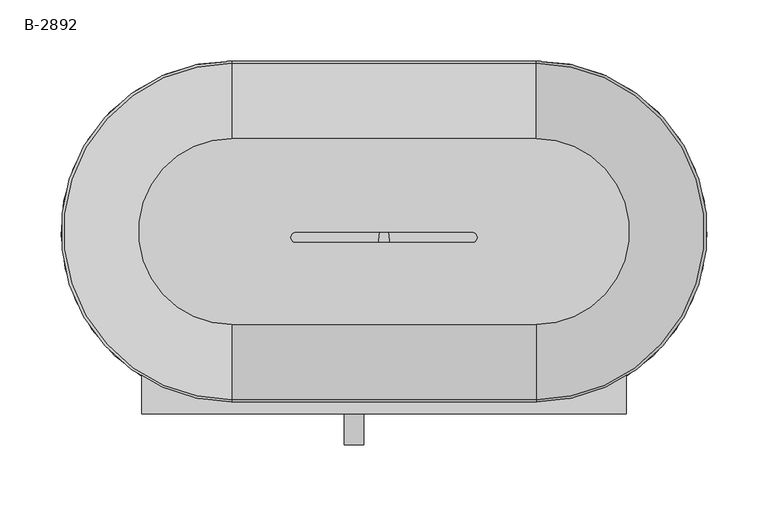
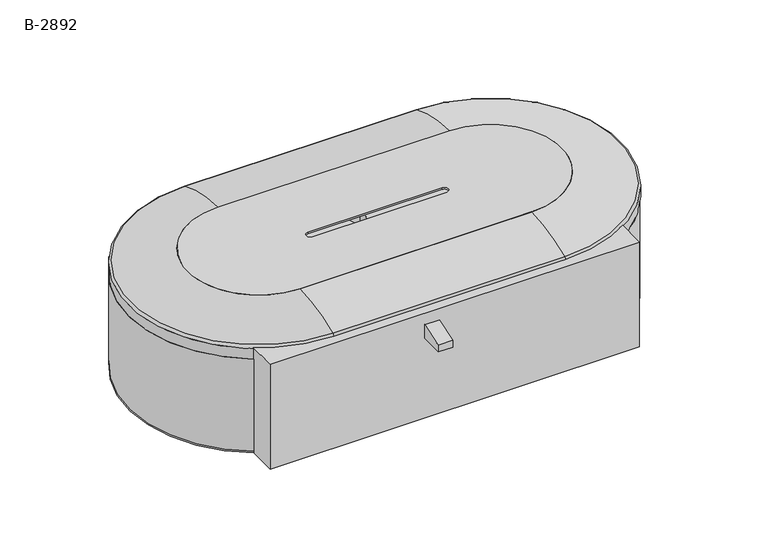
"""IFC4 building model written with IfcOpenShell, lengths in millimetres: proxy geometry, Toilet_Tissue_Dispenser-Bobrick-B2892-Twin_Jumbo_Roll-Surface_Mounted : B-2892."""

from ifc_helpers import new_model, si_unit, point, frame, frame_2d, origin, place, context, project, spatial, polyline, circle_curve, ellipse_curve, trimmed, segment, composite_curve, outline, extrude, source, transform, mapped, element, save
from ifc_brep_helpers import plane_surface, cylinder_surface, revolved_surface, advanced_brep


def b_2892_8b92a380(model_context):
    return source(origin(), model_context, "Body", "SolidModel", [
        advanced_brep(
        [(124.61875, 142.875, 1.5875), (-124.61875, 142.875, 1.5875), (-198.4375, -111.9673368, 1.5875), (-198.4375, -109.5375, 1.5875), (198.4375, -109.5375, 1.5875), (198.4375, -111.9673368, 1.5875), (-124.61875, 144.4625, 0.0), (124.61875, 144.4625, 0.0), (198.4375, -113.8413876, 0.0), (198.4375, -144.4625, 0.0), (-198.4375, -144.4625, 0.0), (-198.4375, -113.8413876, 0.0), (-124.61875, 144.4625, 1.5875), (-198.4375, -113.8413876, 1.5875), (124.61875, 144.4625, 1.5875), (198.4375, -113.8413876, 1.5875), (-124.61875, 144.4625, 106.3625), (124.61875, 144.4625, 106.3625), (-198.4375, -113.8413876, 106.3625), (-198.4375, -111.9673368, 106.3625), (-124.61875, 142.875, 106.3625), (124.61875, 142.875, 106.3625), (198.4375, -111.9673368, 106.3625), (198.4375, -113.8413876, 106.3625), (198.4375, -144.4625, 119.0625), (198.4375, -109.5375, 119.0625), (-198.4375, -109.5375, 119.0625), (-198.4375, -144.4625, 119.0625)],
        [
            (0, 1),
            (1, 2, circle_curve(frame((-124.61875, 4.7625, 1.5875), z_axis=(0.0, 0.0, 1.0), x_axis=(1.0, 0.0, 0.0)), 138.1125)),
            (2, 3),
            (3, 4),
            (4, 5),
            (5, 0, circle_curve(frame((124.61875, 4.7625, 1.5875), z_axis=(0.0, 0.0, 1.0), x_axis=(1.0, 0.0, 0.0)), 138.1125)),
            (6, 7),
            (7, 8, circle_curve(frame((124.61875, 4.7625, 0.0), z_axis=(0.0, 0.0, -1.0), x_axis=(1.0, 0.0, 0.0)), 139.7)),
            (8, 9),
            (9, 10),
            (10, 11),
            (11, 6, circle_curve(frame((-124.61875, 4.7625, 0.0), z_axis=(0.0, 0.0, -1.0), x_axis=(1.0, 0.0, 0.0)), 139.7)),
            (12, 6),
            (11, 13),
            (13, 12, circle_curve(frame((-124.61875, 4.7625, 1.5875), z_axis=(0.0, 0.0, -1.0), x_axis=(1.0, 0.0, 0.0)), 139.7)),
            (7, 14),
            (14, 15, circle_curve(frame((124.61875, 4.7625, 1.5875), z_axis=(0.0, 0.0, -1.0), x_axis=(1.0, 0.0, 0.0)), 139.7)),
            (15, 8),
            (12, 16),
            (16, 17),
            (17, 14),
            (16, 18, circle_curve(frame((-124.61875, 4.7625, 106.3625), z_axis=(0.0, 0.0, 1.0), x_axis=(1.0, 0.0, 0.0)), 139.7)),
            (18, 19),
            (19, 20, circle_curve(frame((-124.61875, 4.7625, 106.3625), z_axis=(0.0, 0.0, -1.0), x_axis=(1.0, 0.0, 0.0)), 138.1125)),
            (20, 21),
            (21, 22, circle_curve(frame((124.61875, 4.7625, 106.3625), z_axis=(0.0, 0.0, -1.0), x_axis=(1.0, 0.0, 0.0)), 138.1125)),
            (22, 23),
            (23, 17, circle_curve(frame((124.61875, 4.7625, 106.3625), z_axis=(0.0, 0.0, 1.0), x_axis=(1.0, 0.0, 0.0)), 139.7)),
            (23, 15),
            (13, 18),
            (1, 20),
            (19, 2),
            (0, 21),
            (5, 22),
            (24, 25),
            (25, 26),
            (26, 27),
            (27, 24),
            (24, 9),
            (4, 25),
            (3, 26),
            (10, 27),
        ],
        [
            plane_surface(frame((15.08125, 4.7625, 1.5875), z_axis=(0.0, 0.0, 1.0), x_axis=(0.0, 1.0, 0.0))),
            plane_surface(frame((15.08125, 4.7625, 0.0), z_axis=(0.0, 0.0, -1.0), x_axis=(0.0, -1.0, 0.0))),
            cylinder_surface(frame((-124.61875, 4.7625, 0.0), z_axis=(0.0, 0.0, 1.0), x_axis=(1.0, 0.0, 0.0)), 139.7),
            cylinder_surface(frame((124.61875, 4.7625, 0.0), z_axis=(0.0, 0.0, 1.0), x_axis=(1.0, 0.0, 0.0)), 139.7),
            plane_surface(frame((124.61875, 144.4625, 1.5875), z_axis=(0.0, 1.0, 0.0), x_axis=(0.0, 0.0, -1.0))),
            plane_surface(frame((-124.61875, -134.9375, 106.3625), z_axis=(0.0, 0.0, 1.0), x_axis=(1.0, 0.0, 0.0))),
            revolved_surface(polyline([(13.493750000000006, 4.7625, 1.5875), (13.493750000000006, 4.7625, 106.3625)]), (-124.61875, 4.7625, 0.0), (0.0, 0.0, -1.0)),
            plane_surface(frame((-124.61875, 142.875, 106.3625), z_axis=(0.0, -1.0, 0.0), x_axis=(0.0, 0.0, -1.0))),
            revolved_surface(polyline([(262.73125000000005, 4.7625, 1.5875), (262.73125000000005, 4.7625, 106.3625)]), (124.61875, 4.7625, 0.0), (0.0, 0.0, -1.0)),
            plane_surface(frame((198.4375, -144.4625, 119.0625), z_axis=(0.0, 0.0, 1.0), x_axis=(0.0, 1.0, 0.0))),
            plane_surface(frame((198.4375, -144.4625, 119.0625), z_axis=(1.0, 0.0, 0.0), x_axis=(0.0, 0.0, -1.0))),
            plane_surface(frame((198.4375, -109.5375, 119.0625), z_axis=(0.0, 1.0, 0.0), x_axis=(0.0, 0.0, -1.0))),
            plane_surface(frame((-198.4375, -109.5375, 119.0625), z_axis=(-1.0, 0.0, 0.0), x_axis=(0.0, 0.0, -1.0))),
            plane_surface(frame((-198.4375, -144.4625, 119.0625), z_axis=(0.0, -1.0, 0.0), x_axis=(0.0, 0.0, -1.0))),
        ],
        [
            (0, [[1, 2, 3, 4, 5, 6]]),
            (1, [[7, 8, 9, 10, 11, 12]]),
            (2, [[13, -12, 14, 15]]),
            (3, [[16, 17, 18, -8]]),
            (4, [[-7, -13, 19, 20, 21, -16]]),
            (5, [[-20, 22, 23, 24, 25, 26, 27, 28]]),
            (3, [[-21, -28, 29, -17]]),
            (2, [[-19, -15, 30, -22]]),
            (6, [[31, -24, 32, -2]]),
            (7, [[-25, -31, -1, 33]]),
            (8, [[-33, -6, 34, -26]]),
            (9, [[35, 36, 37, 38]]),
            (10, [[-35, 39, -9, -18, -29, -27, -34, -5, 40]]),
            (11, [[-36, -40, -4, 41]]),
            (12, [[-37, -41, -3, -32, -23, -30, -14, -11, 42]]),
            (13, [[-38, -42, -10, -39]]),
        ],
    ),
        extrude(outline(composite_curve([segment(trimmed(circle_curve(frame_2d((124.61875, 4.7625)), 76.2), [point((124.61875, 80.9625))], [point((124.61875, -71.4375))], False, "CARTESIAN"), True, "CONTINUOUS"), segment(polyline([(124.61875, -71.4375), (-124.61875, -71.4375)]), True, "CONTINUOUS"), segment(trimmed(circle_curve(frame_2d((-124.61875, 4.7625)), 76.2), [point((-124.61875, -71.4375))], [point((-124.61875, 80.9625))], False, "CARTESIAN"), True, "CONTINUOUS"), segment(polyline([(-124.61875, 80.9625), (124.61875, 80.9625)]), True, "CONTINUOUS")], self_intersect=False), holes=[composite_curve([segment(polyline([(72.23125, 3.96875), (-72.23125, 3.96875)]), True, "CONTINUOUS"), segment(trimmed(circle_curve(frame_2d((-72.23125, 0.0)), 3.96875), [point((-72.23125, 3.96875))], [point((-72.23125, -3.96875))], True, "CARTESIAN"), True, "CONTINUOUS"), segment(polyline([(-72.23125, -3.96875), (72.23125, -3.96875)]), True, "CONTINUOUS"), segment(trimmed(circle_curve(frame_2d((72.23125, 0.0)), 3.96875), [point((72.23125, -3.96875))], [point((72.23125, 3.96875))], True, "CARTESIAN"), True, "CONTINUOUS")], self_intersect=False)]), frame((0.0, 0.0, 133.35), z_axis=(0.0, 0.0, 1.0), x_axis=(1.0, 0.0, 0.0)), (0.0, 0.0, 1.0), 1.5875),
        advanced_brep(
        [(-124.61875, -133.0826824, 121.5135528), (-124.61875, 142.6076824, 121.5135528), (-124.61875, 144.4625, 118.6260376), (-124.61875, -134.9375, 118.6260376), (-124.61875, -71.4375, 134.9375), (-124.61875, 80.9625, 134.9375), (-124.61875, -71.4375, 133.35), (-124.61875, 80.9625, 133.35), (-124.61875, -133.35, 119.6418701), (-124.61875, 142.875, 119.6418701), (-124.61875, -133.35, 106.3625), (-124.61875, 142.875, 106.3625), (-124.61875, 144.4625, 106.3625), (-124.61875, -134.9375, 106.3625), (124.61875, -134.9375, 118.6260376), (124.61875, -133.0826824, 121.5135528), (124.61875, -71.4375, 134.9375), (124.61875, -71.4375, 133.35), (124.61875, -133.35, 119.6418701), (124.61875, -133.35, 106.3625), (124.61875, -134.9375, 106.3625), (124.61875, 142.6076824, 121.5135528), (124.61875, 144.4625, 118.6260376), (124.61875, 80.9625, 134.9375), (124.61875, 80.9625, 133.35), (124.61875, 142.875, 119.6418701), (124.61875, 142.875, 106.3625), (124.61875, 144.4625, 106.3625)],
        [
            (0, 1, circle_curve(frame((-124.61875, 4.7625, 121.5135528), z_axis=(0.0, 0.0, -1.0), x_axis=(0.0, 1.0, 0.0)), 137.8451824)),
            (1, 2, circle_curve(frame((-124.61875, 141.2875, 118.6260376), z_axis=(-1.0, 0.0, 0.0), x_axis=(0.0, -1.0, 0.0)), 3.175)),
            (2, 3, circle_curve(frame((-124.61875, 4.7625, 118.6260376), z_axis=(0.0, 0.0, 1.0), x_axis=(0.0, 1.0, 0.0)), 139.7)),
            (3, 0, circle_curve(frame((-124.61875, -131.7625, 118.6260376), z_axis=(-1.0, 0.0, 0.0), x_axis=(0.0, 1.0, 0.0)), 3.175)),
            (4, 5, circle_curve(frame((-124.61875, 4.7625, 134.9375), z_axis=(0.0, 0.0, -1.0), x_axis=(0.0, 1.0, 0.0)), 76.2)),
            (5, 1, circle_curve(frame((-124.61875, 80.9625, -13.3173611), z_axis=(-1.0, 0.0, 0.0), x_axis=(0.0, -1.0, 0.0)), 148.2548611)),
            (0, 4, circle_curve(frame((-124.61875, -71.4375, -13.3173611), z_axis=(-1.0, 0.0, 0.0), x_axis=(0.0, 1.0, 0.0)), 148.2548611)),
            (6, 7, circle_curve(frame((-124.61875, 4.7625, 133.35), z_axis=(0.0, 0.0, -1.0), x_axis=(0.0, 1.0, 0.0)), 76.2)),
            (7, 5),
            (4, 6),
            (8, 9, circle_curve(frame((-124.61875, 4.7625, 119.6418701), z_axis=(0.0, 0.0, -1.0), x_axis=(0.0, 1.0, 0.0)), 138.1125)),
            (9, 7, circle_curve(frame((-124.61875, 80.9625, -13.3173611), z_axis=(1.0, 0.0, 0.0), x_axis=(0.0, -1.0, 0.0)), 146.6673611)),
            (6, 8, circle_curve(frame((-124.61875, -71.4375, -13.3173611), z_axis=(1.0, 0.0, 0.0), x_axis=(0.0, 1.0, 0.0)), 146.6673611)),
            (10, 11, circle_curve(frame((-124.61875, 4.7625, 106.3625), z_axis=(0.0, 0.0, -1.0), x_axis=(0.0, 1.0, 0.0)), 138.1125)),
            (11, 9),
            (8, 10),
            (2, 12),
            (12, 13, circle_curve(frame((-124.61875, 4.7625, 106.3625), z_axis=(0.0, 0.0, 1.0), x_axis=(0.0, 1.0, 0.0)), 139.7)),
            (13, 3),
            (3, 14),
            (14, 15, circle_curve(frame((124.61875, -131.7625, 118.6260376), z_axis=(-1.0, 0.0, 0.0), x_axis=(0.0, 1.0, 0.0)), 3.175)),
            (15, 0),
            (15, 16, circle_curve(frame((124.61875, -71.4375, -13.3173611), z_axis=(-1.0, 0.0, 0.0), x_axis=(0.0, 1.0, 0.0)), 148.2548611)),
            (16, 4),
            (16, 17),
            (17, 6),
            (17, 18, circle_curve(frame((124.61875, -71.4375, -13.3173611), z_axis=(1.0, 0.0, 0.0), x_axis=(0.0, 1.0, 0.0)), 146.6673611)),
            (18, 8),
            (18, 19),
            (19, 10),
            (13, 20),
            (20, 14),
            (21, 15, circle_curve(frame((124.61875, 4.7625, 121.5135528), z_axis=(0.0, 0.0, -1.0), x_axis=(0.0, -1.0, 0.0)), 137.8451824)),
            (14, 22, circle_curve(frame((124.61875, 4.7625, 118.6260376), z_axis=(0.0, 0.0, 1.0), x_axis=(0.0, -1.0, 0.0)), 139.7)),
            (22, 21, circle_curve(frame((124.61875, 141.2875, 118.6260376), z_axis=(1.0, 0.0, 0.0), x_axis=(0.0, -1.0, 0.0)), 3.175)),
            (23, 16, circle_curve(frame((124.61875, 4.7625, 134.9375), z_axis=(0.0, 0.0, -1.0), x_axis=(0.0, -1.0, 0.0)), 76.2)),
            (21, 23, circle_curve(frame((124.61875, 80.9625, -13.3173611), z_axis=(1.0, 0.0, 0.0), x_axis=(0.0, -1.0, 0.0)), 148.2548611)),
            (24, 17, circle_curve(frame((124.61875, 4.7625, 133.35), z_axis=(0.0, 0.0, -1.0), x_axis=(0.0, -1.0, 0.0)), 76.2)),
            (23, 24),
            (25, 18, circle_curve(frame((124.61875, 4.7625, 119.6418701), z_axis=(0.0, 0.0, -1.0), x_axis=(0.0, -1.0, 0.0)), 138.1125)),
            (24, 25, circle_curve(frame((124.61875, 80.9625, -13.3173611), z_axis=(-1.0, 0.0, 0.0), x_axis=(0.0, -1.0, 0.0)), 146.6673611)),
            (26, 19, circle_curve(frame((124.61875, 4.7625, 106.3625), z_axis=(0.0, 0.0, -1.0), x_axis=(0.0, -1.0, 0.0)), 138.1125)),
            (25, 26),
            (20, 27, circle_curve(frame((124.61875, 4.7625, 106.3625), z_axis=(0.0, 0.0, 1.0), x_axis=(0.0, -1.0, 0.0)), 139.7)),
            (27, 22),
            (22, 2),
            (1, 21),
            (5, 23),
            (7, 24),
            (9, 25),
            (11, 26),
            (12, 27),
        ],
        [
            revolved_surface(trimmed(ellipse_curve(frame((-124.61875, 141.2875, 118.6260376), z_axis=(1.0, 0.0, 0.0), x_axis=(0.0, -1.0, 0.0)), 3.175, 3.175), [point((-124.61875, 144.4625, 118.6260376))], [point((-124.61875, 142.6076824, 121.5135528))], True, "CARTESIAN"), (-124.61875, 4.7625, 0.0), (0.0, 0.0, 1.0)),
            revolved_surface(trimmed(ellipse_curve(frame((-124.61875, 80.9625, -13.3173611), z_axis=(1.0, 0.0, 0.0), x_axis=(0.0, -1.0, 0.0)), 148.2548611, 148.2548611), [point((-124.61875, 142.6076824, 121.5135528))], [point((-124.61875, 80.9625, 134.9375))], True, "CARTESIAN"), (-124.61875, 4.7625, 0.0), (0.0, 0.0, 1.0)),
            revolved_surface(polyline([(-124.61875, 80.9625, 134.9375), (-124.61875, 80.9625, 133.35)]), (-124.61875, 4.7625, 0.0), (0.0, 0.0, 1.0)),
            revolved_surface(trimmed(ellipse_curve(frame((-124.61875, 80.9625, -13.3173611), z_axis=(-1.0, 0.0, 0.0), x_axis=(0.0, -1.0, 0.0)), 146.6673611, 146.6673611), [point((-124.61875, 80.9625, 133.35))], [point((-124.61875, 142.875, 119.6418701))], True, "CARTESIAN"), (-124.61875, 4.7625, 0.0), (0.0, 0.0, 1.0)),
            revolved_surface(polyline([(-124.61875, 142.875, 119.6418701), (-124.61875, 142.875, 106.3625)]), (-124.61875, 4.7625, 0.0), (0.0, 0.0, 1.0)),
            cylinder_surface(frame((-124.61875, 4.7625, 0.0), z_axis=(0.0, 0.0, 1.0), x_axis=(0.0, 1.0, 0.0)), 139.7),
            cylinder_surface(frame((-124.61875, -131.7625, 118.6260376), z_axis=(-1.0, 0.0, 0.0), x_axis=(0.0, 1.0, 0.0)), 3.175),
            cylinder_surface(frame((-124.61875, -71.4375, -13.3173611), z_axis=(-1.0, 0.0, 0.0), x_axis=(0.0, 1.0, 0.0)), 148.2548611),
            plane_surface(frame((-124.61875, -71.4375, 134.9375), z_axis=(0.0, 1.0, 0.0), x_axis=(1.0, 0.0, 0.0))),
            revolved_surface(polyline([(124.61875, 75.2298611, -13.3173611), (-124.61875, 75.2298611, -13.3173611)]), (-124.61875, -71.4375, -13.3173611), (1.0, 0.0, 0.0)),
            plane_surface(frame((-124.61875, -133.35, 119.6418701), z_axis=(0.0, 1.0, 0.0), x_axis=(1.0, 0.0, 0.0))),
            plane_surface(frame((-124.61875, -134.9375, 106.3625), z_axis=(0.0, -1.0, 0.0), x_axis=(1.0, 0.0, 0.0))),
            revolved_surface(trimmed(ellipse_curve(frame((124.61875, -131.7625, 118.6260376), z_axis=(-1.0, 0.0, 0.0), x_axis=(0.0, 1.0, 0.0)), 3.175, 3.175), [point((124.61875, -134.9375, 118.6260376))], [point((124.61875, -133.0826824, 121.5135528))], True, "CARTESIAN"), (124.61875, 4.7625, 0.0), (0.0, 0.0, 1.0)),
            revolved_surface(trimmed(ellipse_curve(frame((124.61875, -71.4375, -13.3173611), z_axis=(-1.0, 0.0, 0.0), x_axis=(0.0, 1.0, 0.0)), 148.2548611, 148.2548611), [point((124.61875, -133.0826824, 121.5135528))], [point((124.61875, -71.4375, 134.9375))], True, "CARTESIAN"), (124.61875, 4.7625, 0.0), (0.0, 0.0, 1.0)),
            revolved_surface(polyline([(124.61875, -71.4375, 134.9375), (124.61875, -71.4375, 133.35)]), (124.61875, 4.7625, 0.0), (0.0, 0.0, 1.0)),
            revolved_surface(trimmed(ellipse_curve(frame((124.61875, -71.4375, -13.3173611), z_axis=(1.0, 0.0, 0.0), x_axis=(0.0, 1.0, 0.0)), 146.6673611, 146.6673611), [point((124.61875, -71.4375, 133.35))], [point((124.61875, -133.35, 119.6418701))], True, "CARTESIAN"), (124.61875, 4.7625, 0.0), (0.0, 0.0, 1.0)),
            revolved_surface(polyline([(124.61875, -133.35000000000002, 119.6418701), (124.61875, -133.35000000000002, 106.3625)]), (124.61875, 4.7625, 0.0), (0.0, 0.0, 1.0)),
            cylinder_surface(frame((124.61875, 4.7625, 0.0), z_axis=(0.0, 0.0, 1.0), x_axis=(0.0, -1.0, 0.0)), 139.7),
            cylinder_surface(frame((124.61875, 141.2875, 118.6260376), z_axis=(1.0, 0.0, 0.0), x_axis=(0.0, -1.0, 0.0)), 3.175),
            cylinder_surface(frame((124.61875, 80.9625, -13.3173611), z_axis=(1.0, 0.0, 0.0), x_axis=(0.0, -1.0, 0.0)), 148.2548611),
            plane_surface(frame((124.61875, 80.9625, 134.9375), z_axis=(0.0, -1.0, 0.0), x_axis=(-1.0, 0.0, 0.0))),
            revolved_surface(polyline([(-124.61875, -65.70486109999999, -13.3173611), (124.61875, -65.70486109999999, -13.3173611)]), (124.61875, 80.9625, -13.3173611), (-1.0, 0.0, 0.0)),
            plane_surface(frame((124.61875, 142.875, 119.6418701), z_axis=(0.0, -1.0, 0.0), x_axis=(-1.0, 0.0, 0.0))),
            plane_surface(frame((124.61875, 142.875, 106.3625), z_axis=(0.0, 0.0, -1.0), x_axis=(-1.0, 0.0, 0.0))),
            plane_surface(frame((124.61875, 144.4625, 106.3625), z_axis=(0.0, 1.0, 0.0), x_axis=(-1.0, 0.0, 0.0))),
        ],
        [
            (0, [[1, 2, 3, 4]]),
            (1, [[5, 6, -1, 7]]),
            (2, [[8, 9, -5, 10]]),
            (3, [[11, 12, -8, 13]]),
            (4, [[14, 15, -11, 16]]),
            (5, [[-3, 17, 18, 19]]),
            (6, [[-4, 20, 21, 22]]),
            (7, [[-7, -22, 23, 24]]),
            (8, [[-10, -24, 25, 26]]),
            (9, [[-13, -26, 27, 28]]),
            (10, [[-16, -28, 29, 30]]),
            (11, [[-19, 31, 32, -20]]),
            (12, [[33, -21, 34, 35]]),
            (13, [[36, -23, -33, 37]]),
            (14, [[38, -25, -36, 39]]),
            (15, [[40, -27, -38, 41]]),
            (16, [[42, -29, -40, 43]]),
            (17, [[-34, -32, 44, 45]]),
            (18, [[-35, 46, -2, 47]]),
            (19, [[-37, -47, -6, 48]]),
            (20, [[-39, -48, -9, 49]]),
            (21, [[-41, -49, -12, 50]]),
            (22, [[-43, -50, -15, 51]]),
            (23, [[52, -44, -31, -18], [-30, -42, -51, -14]]),
            (24, [[-45, -52, -17, -46]]),
        ],
    ),
        extrude(outline(composite_curve([segment(trimmed(circle_curve(frame_2d((-130.96875, 4.7625)), 127.0), [point((-257.96875, 4.7625))], [point((-3.96875, 4.7625))], False, "CARTESIAN"), True, "CONTINUOUS"), segment(trimmed(circle_curve(frame_2d((-130.96875, 4.7625)), 127.0), [point((-3.96875, 4.7625))], [point((-257.96875, 4.7625))], False, "CARTESIAN"), True, "CONTINUOUS")], self_intersect=False), holes=[composite_curve([segment(trimmed(circle_curve(frame_2d((-130.96875, 4.7625)), 38.1), [point((-169.06875, 4.7625))], [point((-92.86875, 4.7625))], True, "CARTESIAN"), True, "CONTINUOUS"), segment(trimmed(circle_curve(frame_2d((-130.96875, 4.7625)), 38.1), [point((-92.86875, 4.7625))], [point((-169.06875, 4.7625))], True, "CARTESIAN"), True, "CONTINUOUS")], self_intersect=False)]), frame((0.0, 0.0, 1.5875), z_axis=(0.0, 0.0, 1.0), x_axis=(1.0, 0.0, 0.0)), (0.0, 0.0, 1.0), 104.775),
        extrude(outline(composite_curve([segment(trimmed(circle_curve(frame_2d((130.96875, 4.7625)), 127.0), [point((3.96875, 4.7625))], [point((257.96875, 4.7625))], False, "CARTESIAN"), True, "CONTINUOUS"), segment(trimmed(circle_curve(frame_2d((130.96875, 4.7625)), 127.0), [point((257.96875, 4.7625))], [point((3.96875, 4.7625))], False, "CARTESIAN"), True, "CONTINUOUS")], self_intersect=False), holes=[composite_curve([segment(trimmed(circle_curve(frame_2d((130.96875, 4.7625)), 38.1), [point((92.86875, 4.7625))], [point((169.06875, 4.7625))], True, "CARTESIAN"), True, "CONTINUOUS"), segment(trimmed(circle_curve(frame_2d((130.96875, 4.7625)), 38.1), [point((169.06875, 4.7625))], [point((92.86875, 4.7625))], True, "CARTESIAN"), True, "CONTINUOUS")], self_intersect=False)]), frame((0.0, 0.0, 1.5875), z_axis=(0.0, 0.0, 1.0), x_axis=(1.0, 0.0, 0.0)), (0.0, 0.0, 1.0), 104.775),
        extrude(outline(polyline([(-169.8625, 98.425), (-144.4625, 106.3625), (-144.4625, 90.4875), (-169.8625, 90.4875), (-169.8625, 98.425)])), frame((-32.54375, 0.0, 0.0), z_axis=(1.0, 0.0, 0.0), x_axis=(0.0, 1.0, 0.0)), (0.0, 0.0, 1.0), 15.875),
    ])


if __name__ == "__main__":
    model = new_model("IFC4")
    model_context = context("Model", 3, world=origin())
    ifc_project = project(units=[si_unit("LENGTHUNIT", "METRE", prefix="MILLI")], contexts=[model_context])
    site = spatial("IfcSite", under=ifc_project)
    building = spatial("IfcBuilding", under=site)
    placement = place(None, origin())
    b_2892_shape = b_2892_8b92a380(model_context)
    element("IfcBuildingElementProxy", 1, Name="Toilet_Tissue_Dispenser-Bobrick-B2892-Twin_Jumbo_Roll-Surface_Mounted : B-2892", ObjectType="Toilet_Tissue_Dispenser-Bobrick-B2892-Twin_Jumbo_Roll-Surface_Mounted : B-2892", at=placement, inside=building, context=model_context, shape_type="MappedRepresentation", body=[
        mapped(b_2892_shape, transform((0.0, 0.0, 0.0), x_axis=(1.0, 0.0, 0.0), y_axis=(0.0, 1.0, 0.0), z_axis=(0.0, 0.0, 1.0))),
    ])
    save(model, "model.ifc")
